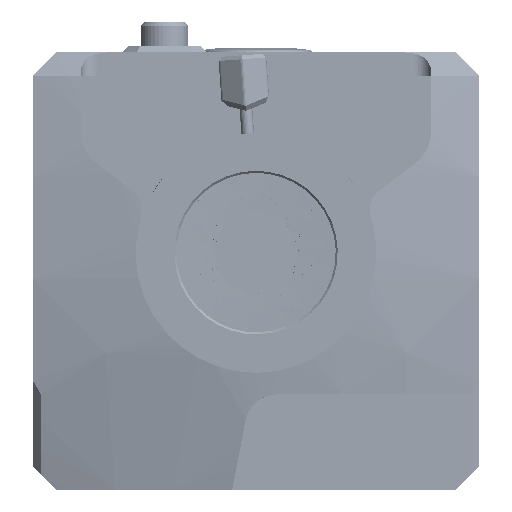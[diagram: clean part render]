
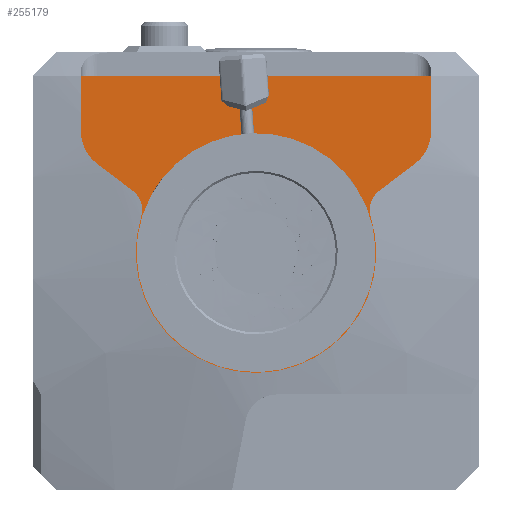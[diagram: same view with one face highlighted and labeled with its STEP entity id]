
A CAD part, left-side view. The second image highlights one B-rep face of the part: STEP entity #255179.
In plain terms, the highlighted planar face has unit normal (-1, 0, 0).
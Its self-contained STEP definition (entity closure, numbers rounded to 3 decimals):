
#10580 = DIRECTION ( 'NONE',  ( 0., -0.796, 0.605 ) ) ;
#44274 = EDGE_CURVE ( 'NONE', #268588, #51873, #91476, .T. ) ;
#46444 = CARTESIAN_POINT ( 'NONE',  ( 6., 28., 29.8 ) ) ;
#51873 = VERTEX_POINT ( 'NONE', #133827 ) ;
#51899 = DIRECTION ( 'NONE',  ( 1., 0., 0. ) ) ;
#57113 = CARTESIAN_POINT ( 'NONE',  ( 6., 12.53, 37.557 ) ) ;
#60189 = LINE ( 'NONE', #516337, #497802 ) ;
#64448 = DIRECTION ( 'NONE',  ( 0., 0., -1. ) ) ;
#69643 = AXIS2_PLACEMENT_3D ( 'NONE', #131464, #532650, #570568 ) ;
#69728 = DIRECTION ( 'NONE',  ( 1., 0., 0. ) ) ;
#71597 = CIRCLE ( 'NONE', #386859, 15.1 ) ;
#71985 = CIRCLE ( 'NONE', #396763, 11. ) ;
#75694 = CIRCLE ( 'NONE', #530414, 3. ) ;
#88970 = CARTESIAN_POINT ( 'NONE',  ( 6., 48., 41. ) ) ;
#91476 = LINE ( 'NONE', #181406, #533305 ) ;
#119863 = VERTEX_POINT ( 'NONE', #277550 ) ;
#127268 = EDGE_CURVE ( 'NONE', #253943, #268588, #181118, .T. ) ;
#131209 = EDGE_CURVE ( 'NONE', #383964, #475628, #60189, .T. ) ;
#131464 = CARTESIAN_POINT ( 'NONE',  ( 6., 44.975, 44.981 ) ) ;
#132306 = ORIENTED_EDGE ( 'NONE', *, *, #127268, .T. ) ;
#133827 = CARTESIAN_POINT ( 'NONE',  ( 6., 43.47, 37.557 ) ) ;
#137854 = DIRECTION ( 'NONE',  ( 0., -0.796, -0.605 ) ) ;
#138660 = ORIENTED_EDGE ( 'NONE', *, *, #542505, .T. ) ;
#144692 = DIRECTION ( 'NONE',  ( 0., -1., 0. ) ) ;
#146698 = ORIENTED_EDGE ( 'NONE', *, *, #451281, .T. ) ;
#147267 = ORIENTED_EDGE ( 'NONE', *, *, #325198, .T. ) ;
#148200 = CARTESIAN_POINT ( 'NONE',  ( 6., 10.715, 35.169 ) ) ;
#161184 = VECTOR ( 'NONE', #165620, 1000. ) ;
#165620 = DIRECTION ( 'NONE',  ( 0., 0., 1. ) ) ;
#168926 = VECTOR ( 'NONE', #10580, 1000. ) ;
#173618 = FACE_OUTER_BOUND ( 'NONE', #181847, .T. ) ;
#181118 = CIRCLE ( 'NONE', #69643, 5. ) ;
#181406 = CARTESIAN_POINT ( 'NONE',  ( 6., 43.47, 37.557 ) ) ;
#181847 = EDGE_LOOP ( 'NONE', ( #351243, #146698, #268958, #382225, #265497, #138660, #258373, #147267, #132306, #388188 ) ) ;
#187792 = CARTESIAN_POINT ( 'NONE',  ( 6., 17., 29.8 ) ) ;
#201123 = CARTESIAN_POINT ( 'NONE',  ( 6., 49.975, 52. ) ) ;
#205296 = AXIS2_PLACEMENT_3D ( 'NONE', #226485, #220754, #403848 ) ;
#220754 = DIRECTION ( 'NONE',  ( -1., 0., 0. ) ) ;
#225350 = VERTEX_POINT ( 'NONE', #455858 ) ;
#226485 = CARTESIAN_POINT ( 'NONE',  ( 6., 11.025, 44.981 ) ) ;
#251530 = EDGE_CURVE ( 'NONE', #51873, #395012, #404283, .T. ) ;
#253943 = VERTEX_POINT ( 'NONE', #273439 ) ;
#255179 = ADVANCED_FACE ( 'NONE', ( #173618, #391705 ), #487551, .T. ) ;
#258373 = ORIENTED_EDGE ( 'NONE', *, *, #131209, .T. ) ;
#265497 = ORIENTED_EDGE ( 'NONE', *, *, #273280, .T. ) ;
#268588 = VERTEX_POINT ( 'NONE', #88970 ) ;
#268958 = ORIENTED_EDGE ( 'NONE', *, *, #528420, .T. ) ;
#273280 = EDGE_CURVE ( 'NONE', #445301, #119863, #307365, .T. ) ;
#273439 = CARTESIAN_POINT ( 'NONE',  ( 6., 49.975, 44.981 ) ) ;
#277550 = CARTESIAN_POINT ( 'NONE',  ( 6., 6.025, 44.981 ) ) ;
#290808 = DIRECTION ( 'NONE',  ( 0., -1., 0. ) ) ;
#304428 = DIRECTION ( 'NONE',  ( -1., 0., 0. ) ) ;
#307365 = CIRCLE ( 'NONE', #205296, 5. ) ;
#310156 = CARTESIAN_POINT ( 'NONE',  ( 6., 45.285, 35.169 ) ) ;
#320638 = CARTESIAN_POINT ( 'NONE',  ( 6., 13.58, 34.279 ) ) ;
#323636 = EDGE_CURVE ( 'NONE', #225350, #445301, #455201, .T. ) ;
#325198 = EDGE_CURVE ( 'NONE', #475628, #253943, #328771, .T. ) ;
#326096 = VECTOR ( 'NONE', #64448, 1000. ) ;
#328771 = LINE ( 'NONE', #372469, #326096 ) ;
#351243 = ORIENTED_EDGE ( 'NONE', *, *, #251530, .T. ) ;
#360492 = CARTESIAN_POINT ( 'NONE',  ( 6., 8., 41. ) ) ;
#372469 = CARTESIAN_POINT ( 'NONE',  ( 6., 49.975, 44.981 ) ) ;
#381012 = CARTESIAN_POINT ( 'NONE',  ( 6., 28., 29.8 ) ) ;
#382225 = ORIENTED_EDGE ( 'NONE', *, *, #323636, .T. ) ;
#383964 = VERTEX_POINT ( 'NONE', #408354 ) ;
#386859 = AXIS2_PLACEMENT_3D ( 'NONE', #46444, #488237, #534752 ) ;
#387273 = AXIS2_PLACEMENT_3D ( 'NONE', #310156, #304428, #484677 ) ;
#388188 = ORIENTED_EDGE ( 'NONE', *, *, #44274, .T. ) ;
#391705 = FACE_BOUND ( 'NONE', #442672, .T. ) ;
#395012 = VERTEX_POINT ( 'NONE', #480962 ) ;
#396763 = AXIS2_PLACEMENT_3D ( 'NONE', #381012, #511894, #290808 ) ;
#403049 = VERTEX_POINT ( 'NONE', #187792 ) ;
#403848 = DIRECTION ( 'NONE',  ( 0., -1., 0. ) ) ;
#404283 = CIRCLE ( 'NONE', #478572, 3. ) ;
#408354 = CARTESIAN_POINT ( 'NONE',  ( 6., 6.025, 52. ) ) ;
#421412 = DIRECTION ( 'NONE',  ( 0., 1., 0. ) ) ;
#441667 = CARTESIAN_POINT ( 'NONE',  ( 6., 6.025, 52. ) ) ;
#442672 = EDGE_LOOP ( 'NONE', ( #550049 ) ) ;
#445301 = VERTEX_POINT ( 'NONE', #360492 ) ;
#451281 = EDGE_CURVE ( 'NONE', #395012, #542045, #71597, .T. ) ;
#455201 = LINE ( 'NONE', #57113, #168926 ) ;
#455858 = CARTESIAN_POINT ( 'NONE',  ( 6., 12.53, 37.557 ) ) ;
#475628 = VERTEX_POINT ( 'NONE', #201123 ) ;
#478572 = AXIS2_PLACEMENT_3D ( 'NONE', #499368, #51899, #144692 ) ;
#479532 = LINE ( 'NONE', #441667, #161184 ) ;
#480962 = CARTESIAN_POINT ( 'NONE',  ( 6., 42.42, 34.279 ) ) ;
#484677 = DIRECTION ( 'NONE',  ( 0., -1., 0. ) ) ;
#487551 = PLANE ( 'NONE',  #387273 ) ;
#488237 = DIRECTION ( 'NONE',  ( -1., 0., 0. ) ) ;
#497802 = VECTOR ( 'NONE', #559916, 1000. ) ;
#499368 = CARTESIAN_POINT ( 'NONE',  ( 6., 45.285, 35.169 ) ) ;
#511894 = DIRECTION ( 'NONE',  ( 1., 0., 0. ) ) ;
#516337 = CARTESIAN_POINT ( 'NONE',  ( 6., 49.975, 52. ) ) ;
#528420 = EDGE_CURVE ( 'NONE', #542045, #225350, #75694, .T. ) ;
#530414 = AXIS2_PLACEMENT_3D ( 'NONE', #148200, #69728, #421412 ) ;
#532650 = DIRECTION ( 'NONE',  ( -1., 0., 0. ) ) ;
#533305 = VECTOR ( 'NONE', #137854, 1000. ) ;
#534752 = DIRECTION ( 'NONE',  ( 0., -1., 0. ) ) ;
#542045 = VERTEX_POINT ( 'NONE', #320638 ) ;
#542505 = EDGE_CURVE ( 'NONE', #119863, #383964, #479532, .T. ) ;
#550049 = ORIENTED_EDGE ( 'NONE', *, *, #559362, .T. ) ;
#559362 = EDGE_CURVE ( 'NONE', #403049, #403049, #71985, .T. ) ;
#559916 = DIRECTION ( 'NONE',  ( 0., 1., 0. ) ) ;
#570568 = DIRECTION ( 'NONE',  ( 0., 1., 0. ) ) ;
